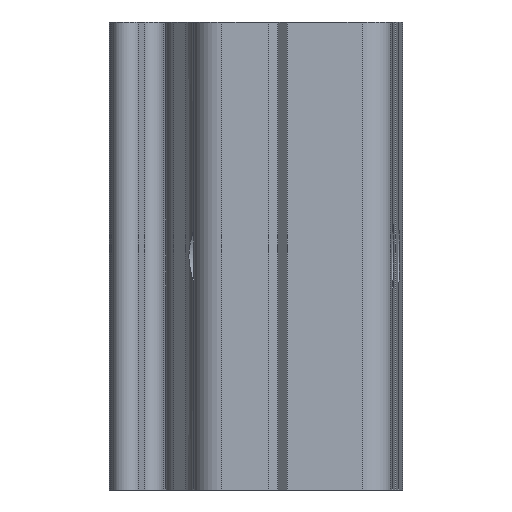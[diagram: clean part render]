
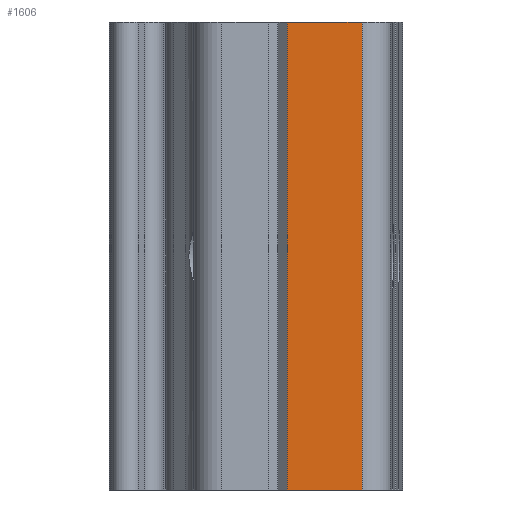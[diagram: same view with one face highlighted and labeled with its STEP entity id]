
A CAD part, front view. The second image highlights one B-rep face of the part: STEP entity #1606.
In plain terms, the highlighted planar face has unit normal (0, -1, 0).
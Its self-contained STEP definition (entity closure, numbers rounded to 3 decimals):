
#15 = DIRECTION ( 'NONE',  ( 0., 1., 0. ) ) ;
#169 = DIRECTION ( 'NONE',  ( 1., 0., 0. ) ) ;
#212 = ORIENTED_EDGE ( 'NONE', *, *, #3171, .F. ) ;
#301 = VERTEX_POINT ( 'NONE', #1103 ) ;
#383 = CARTESIAN_POINT ( 'NONE',  ( 2.931, -67.73, -25. ) ) ;
#427 = ORIENTED_EDGE ( 'NONE', *, *, #762, .T. ) ;
#476 = EDGE_CURVE ( 'NONE', #301, #2824, #2646, .T. ) ;
#612 = DIRECTION ( 'NONE',  ( 1., 0., 0. ) ) ;
#628 = EDGE_LOOP ( 'NONE', ( #1585, #212, #2335, #427 ) ) ;
#762 = EDGE_CURVE ( 'NONE', #1161, #301, #3165, .T. ) ;
#815 = DIRECTION ( 'NONE',  ( 0., 0., -1. ) ) ;
#821 = VECTOR ( 'NONE', #1060, 1000. ) ;
#1060 = DIRECTION ( 'NONE',  ( 0., 0., -1. ) ) ;
#1103 = CARTESIAN_POINT ( 'NONE',  ( -5.07, -67.73, -25. ) ) ;
#1161 = VERTEX_POINT ( 'NONE', #2572 ) ;
#1191 = VERTEX_POINT ( 'NONE', #2331 ) ;
#1318 = CARTESIAN_POINT ( 'NONE',  ( -5.07, -67.73, 25. ) ) ;
#1343 = LINE ( 'NONE', #1577, #2245 ) ;
#1386 = CARTESIAN_POINT ( 'NONE',  ( -5.07, -67.73, -25. ) ) ;
#1484 = PLANE ( 'NONE',  #1685 ) ;
#1577 = CARTESIAN_POINT ( 'NONE',  ( 2.931, -67.73, 25. ) ) ;
#1585 = ORIENTED_EDGE ( 'NONE', *, *, #476, .T. ) ;
#1606 = ADVANCED_FACE ( 'NONE', ( #3037 ), #1484, .F. ) ;
#1685 = AXIS2_PLACEMENT_3D ( 'NONE', #1705, #15, #1739 ) ;
#1705 = CARTESIAN_POINT ( 'NONE',  ( -5.07, -67.73, 25. ) ) ;
#1739 = DIRECTION ( 'NONE',  ( -1., 0., 0. ) ) ;
#2245 = VECTOR ( 'NONE', #815, 1000. ) ;
#2331 = CARTESIAN_POINT ( 'NONE',  ( 2.931, -67.73, 25. ) ) ;
#2335 = ORIENTED_EDGE ( 'NONE', *, *, #3225, .F. ) ;
#2480 = VECTOR ( 'NONE', #169, 1000. ) ;
#2572 = CARTESIAN_POINT ( 'NONE',  ( -5.07, -67.73, 25. ) ) ;
#2608 = VECTOR ( 'NONE', #612, 1000. ) ;
#2646 = LINE ( 'NONE', #1386, #2480 ) ;
#2791 = LINE ( 'NONE', #1318, #2608 ) ;
#2824 = VERTEX_POINT ( 'NONE', #383 ) ;
#3000 = CARTESIAN_POINT ( 'NONE',  ( -5.07, -67.73, 25. ) ) ;
#3037 = FACE_OUTER_BOUND ( 'NONE', #628, .T. ) ;
#3165 = LINE ( 'NONE', #3000, #821 ) ;
#3171 = EDGE_CURVE ( 'NONE', #1191, #2824, #1343, .T. ) ;
#3225 = EDGE_CURVE ( 'NONE', #1161, #1191, #2791, .T. ) ;
